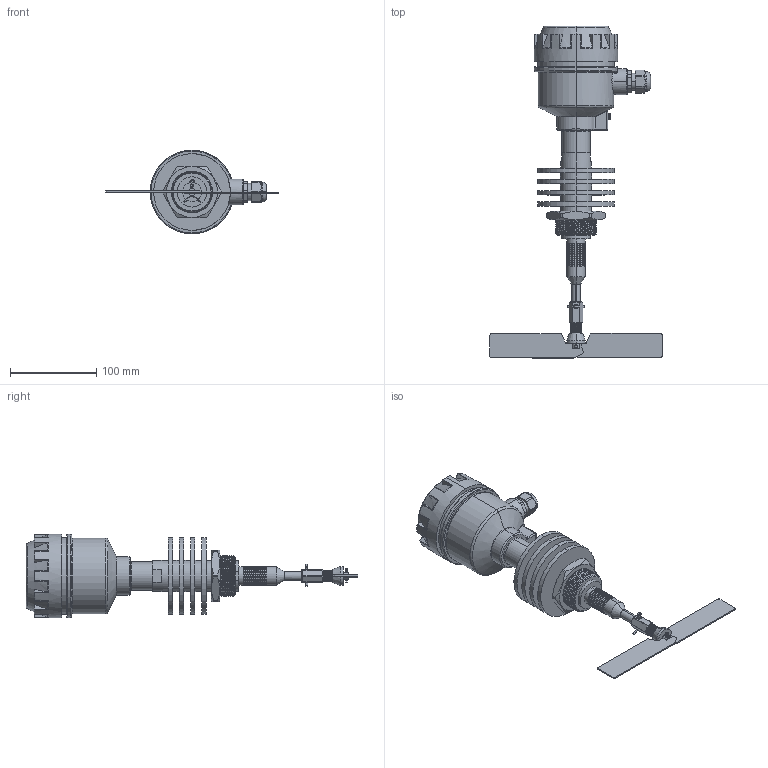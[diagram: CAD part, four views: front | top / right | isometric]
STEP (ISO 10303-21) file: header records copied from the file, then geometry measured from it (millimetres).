
FILE_DESCRIPTION (( 'STEP AP214' ), '1' );
FILE_NAME ('IL-SAA-N-HT ñêëàäíàÿ ëîïàñòü - ð.STEP', '2020-12-26T19:52:47', ( '' ), ( '' ), 'SwSTEP 2.0', 'SolidWorks 2020', '' );
FILE_SCHEMA (( 'AUTOMOTIVE_DESIGN' ));
Length unit declared in the file: millimetre
Products named in the file (11): Ïðóæèíà; Ãîôðà; 幄鼭歑; Ëîïàñòü ñêëàäíàÿ; IL-SAA-N-HT ñêëàäíàÿ ëîïàñòü - ð; Êðûøêà; Øïèëüêà; Øïèëüêà 2ìì; Êîðïóñ âåðõ ð; 扻錝僝鍧; Êîðïóñ íèç ñêëàäíàÿ
Assembly tree (10 placements, depth 2):
  IL-SAA-N-HT ñêëàäíàÿ ëîïàñòü - ð
    Êîðïóñ âåðõ ð
    Ãîôðà
    Êðûøêà
    扻錝僝鍧
    幄鼭歑
    Øïèëüêà
    Êîðïóñ íèç ñêëàäíàÿ
    Ëîïàñòü ñêëàäíàÿ
    Øïèëüêà 2ìì
    Ïðóæèíà
Bounding box: 200 x 385.2 x 97 mm (x, y, z)
Volume: 793882.7 mm3; surface area: 170022.6 mm2
Topology: 10 solids, 10 shells, 733 faces, 1717 edges, 1028 vertices
Faces by surface type: cylinder 297, plane 187, torus 151, cone 35, sphere 34, bspline 29
Entity records: 32272 total; most frequent: CARTESIAN_POINT 15160, DIRECTION 3727, ORIENTED_EDGE 3386, EDGE_CURVE 1693, AXIS2_PLACEMENT_3D 1584, VERTEX_POINT 1020, CIRCLE 867, EDGE_LOOP 787
